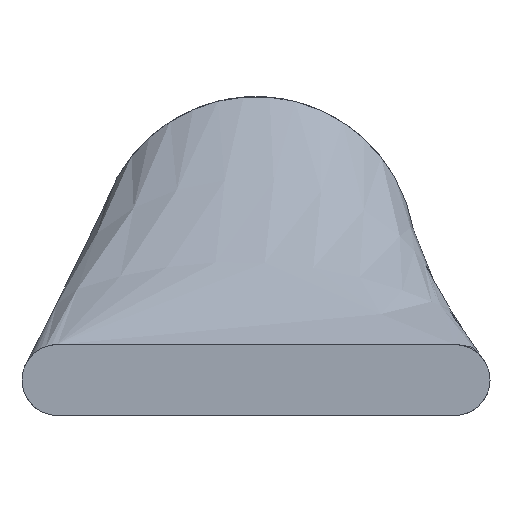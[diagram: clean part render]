
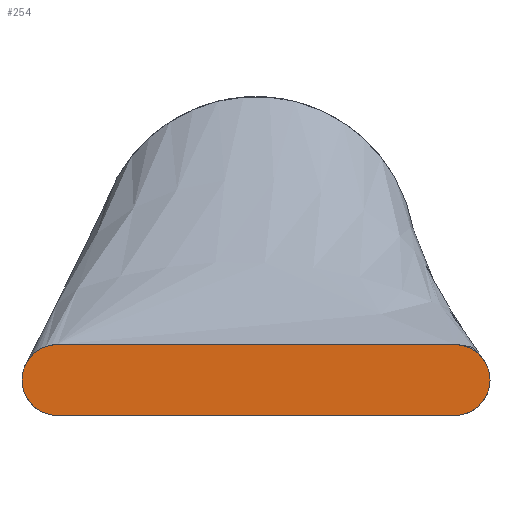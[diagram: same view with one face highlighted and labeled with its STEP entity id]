
A CAD part, front view. The second image highlights one B-rep face of the part: STEP entity #254.
In plain terms, the highlighted planar face has unit normal (0, -1, 0).
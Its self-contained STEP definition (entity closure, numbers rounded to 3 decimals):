
#33=CIRCLE('',#271,1.);
#34=CIRCLE('',#272,1.);
#43=ORIENTED_EDGE('',*,*,#85,.F.);
#44=ORIENTED_EDGE('',*,*,#86,.T.);
#45=ORIENTED_EDGE('',*,*,#87,.T.);
#46=ORIENTED_EDGE('',*,*,#88,.T.);
#85=EDGE_CURVE('',#106,#107,#123,.T.);
#86=EDGE_CURVE('',#106,#108,#33,.F.);
#87=EDGE_CURVE('',#108,#109,#124,.T.);
#88=EDGE_CURVE('',#109,#107,#34,.F.);
#106=VERTEX_POINT('',#341);
#107=VERTEX_POINT('',#342);
#108=VERTEX_POINT('',#344);
#109=VERTEX_POINT('',#346);
#123=LINE('',#340,#129);
#124=LINE('',#345,#130);
#129=VECTOR('',#294,1000.);
#130=VECTOR('',#297,1000.);
#135=EDGE_LOOP('',(#43,#44,#45,#46));
#153=FACE_BOUND('',#135,.T.);
#171=PLANE('',#270);
#254=ADVANCED_FACE('',(#153),#171,.F.);
#270=AXIS2_PLACEMENT_3D('',#339,#292,#293);
#271=AXIS2_PLACEMENT_3D('',#343,#295,#296);
#272=AXIS2_PLACEMENT_3D('',#347,#298,#299);
#292=DIRECTION('',(0.,1.,0.));
#293=DIRECTION('',(0.,0.,1.));
#294=DIRECTION('',(1.,0.,0.));
#295=DIRECTION('',(0.,1.,0.));
#296=DIRECTION('',(0.,0.,1.));
#297=DIRECTION('',(1.,0.,0.));
#298=DIRECTION('',(0.,1.,0.));
#299=DIRECTION('',(0.,0.,1.));
#339=CARTESIAN_POINT('',(-6.604,-6.604,2.));
#340=CARTESIAN_POINT('',(-6.604,-6.604,2.));
#341=CARTESIAN_POINT('',(-5.604,-6.604,2.));
#342=CARTESIAN_POINT('',(5.604,-6.604,2.));
#343=CARTESIAN_POINT('',(-5.604,-6.604,1.));
#344=CARTESIAN_POINT('',(-5.604,-6.604,0.));
#345=CARTESIAN_POINT('',(-6.604,-6.604,0.));
#346=CARTESIAN_POINT('',(5.604,-6.604,0.));
#347=CARTESIAN_POINT('',(5.604,-6.604,1.));
